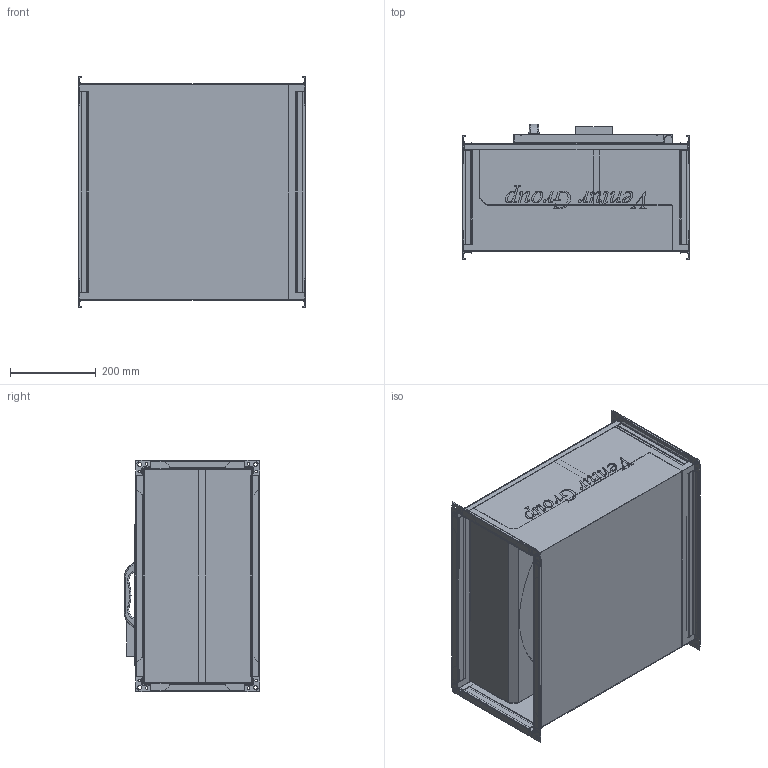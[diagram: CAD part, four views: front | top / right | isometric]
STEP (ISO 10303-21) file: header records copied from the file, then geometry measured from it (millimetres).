
FILE_DESCRIPTION(/* description */ (''),/* implementation_level */ '2;1');
FILE_NAME(/* name */ 'C:\Users\M.Janczarek\Documents\Modele uproszczone\IBF\IBF2_280S 41010034\IBF2_280S 41010034\IBF2_280S 41010034.stp',/* time_stamp */ '2018-03-22T13:59:49+01:00',/* author */ ('M.Janczarek'),/* organization */ (''),/* preprocessor_version */ 'ST-DEVELOPER v16.5',/* originating_system */ 'Autodesk Inventor 2017',/* authorisation */ '');
FILE_SCHEMA (('AUTOMOTIVE_DESIGN { 1 0 10303 214 3 1 1 }'));
Products named in the file (1): IBF2_280S 41010034
Bounding box: 531.6 x 316.49 x 539.97 mm (x, y, z)
Volume: 9679966.9 mm3; surface area: 3125289.3 mm2
Topology: 1 solids, 1 shells, 1385 faces, 4134 edges, 2728 vertices
Faces by surface type: plane 818, bspline 319, cylinder 248
Full cylindrical faces by diameter (mm): 6 x16, 9 x8, 200 x1, 282 x1
Entity records: 52987 total; most frequent: CARTESIAN_POINT 16308, ORIENTED_EDGE 8236, DIRECTION 6118, EDGE_CURVE 4118, LINE 2944, VECTOR 2944, VERTEX_POINT 2738, AXIS2_PLACEMENT_3D 1587
